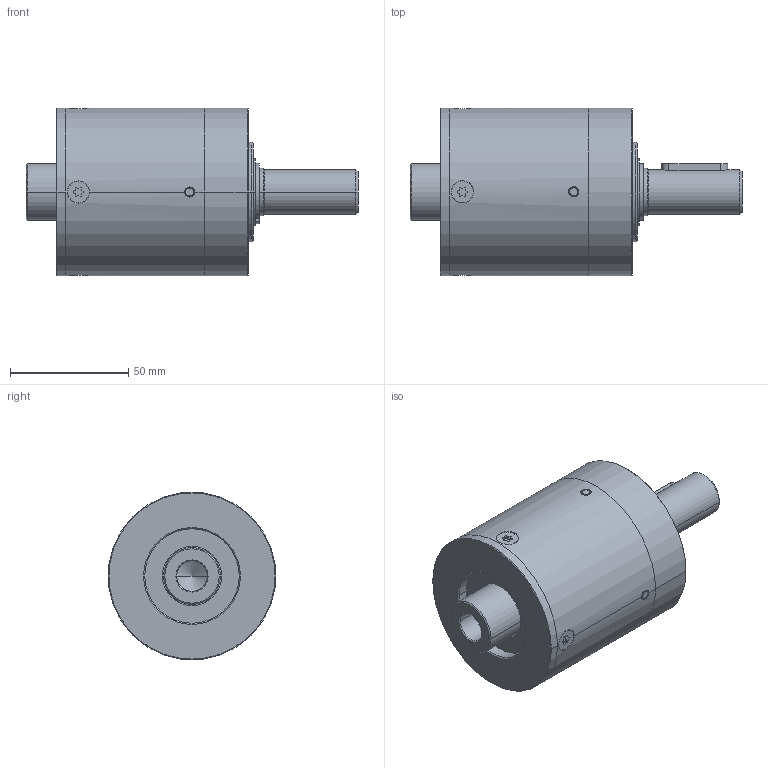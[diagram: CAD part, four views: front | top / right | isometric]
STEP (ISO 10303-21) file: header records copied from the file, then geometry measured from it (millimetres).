
FILE_DESCRIPTION((''),'2;1');
FILE_NAME('IMS71_PRO_MAX_1_STAGE_ASM','2023-07-27T09:46:59',('mhummel'),(''),'CREO PARAMETRIC BY PTC INC, 2020184','CREO PARAMETRIC BY PTC INC, 2020184','');
FILE_SCHEMA(('AUTOMOTIVE_DESIGN { 1 0 10303 214 1 1 1 1 }'));
Length unit declared in the file: millimetre
Products named in the file (16): IMS71_PRO_MAX_BEARING_FLANGE; IMS71_PRO_MAX_BALL_BEARING; IMS71_PRO_MAX_RING_GEAR_1; IMS71_PRO_MAX_CYLINDER_PIN; IMS71_PRO_MAX_RING_GEAR_1_STAGE_ASM; IMS71_PRO_MAX_MOTOR_FLANGE; IMS71_PRO_MAX_SHAFT_RAW_AF0; IMS71_PRO_MAX_SHAFT_ASM; IMS71_PRO_MAX_SHIM_RING; IMS71_PRO_MAX_RETAINING_RING_A; IMS71_PRO_MAX_FEATHER_KEY; IMS71_PRO_MAX_THRUST_WASHER; IMS71_PRO_MAX_SCREW; IMS71_PRO_MAX_MO_PINION_LONG; IMS71_PRO_MAX_MO_PINION_SHORT; IMS71_PRO_MAX_1_STAGE_ASM
Assembly tree (22 placements, depth 3):
  IMS71_PRO_MAX_1_STAGE_ASM
    IMS71_PRO_MAX_BEARING_FLANGE
    IMS71_PRO_MAX_BALL_BEARING  x2
    IMS71_PRO_MAX_RING_GEAR_1_STAGE_ASM
      IMS71_PRO_MAX_RING_GEAR_1
      IMS71_PRO_MAX_CYLINDER_PIN  x4
    IMS71_PRO_MAX_MOTOR_FLANGE
    IMS71_PRO_MAX_SHAFT_ASM
      IMS71_PRO_MAX_SHAFT_RAW_AF0
    IMS71_PRO_MAX_SHIM_RING
    IMS71_PRO_MAX_RETAINING_RING_A
    IMS71_PRO_MAX_FEATHER_KEY
    IMS71_PRO_MAX_THRUST_WASHER
    IMS71_PRO_MAX_SCREW  x4
    IMS71_PRO_MAX_MO_PINION_LONG
    IMS71_PRO_MAX_MO_PINION_SHORT
Bounding box: 140.65 x 71 x 71 mm (x, y, z)
Volume: 266549.5 mm3; surface area: 98683.4 mm2
Topology: 24 solids, 26 shells, 484 faces, 1085 edges, 650 vertices
Faces by surface type: cylinder 204, plane 120, cone 84, torus 60, revolution 16
Entity records: 13323 total; most frequent: CARTESIAN_POINT 2244, DIRECTION 1741, ORIENTED_EDGE 1378, PRESENTATION_STYLE_ASSIGNMENT 813, STYLED_ITEM 809, AXIS2_PLACEMENT_3D 729, CURVE_STYLE 693, EDGE_CURVE 689
